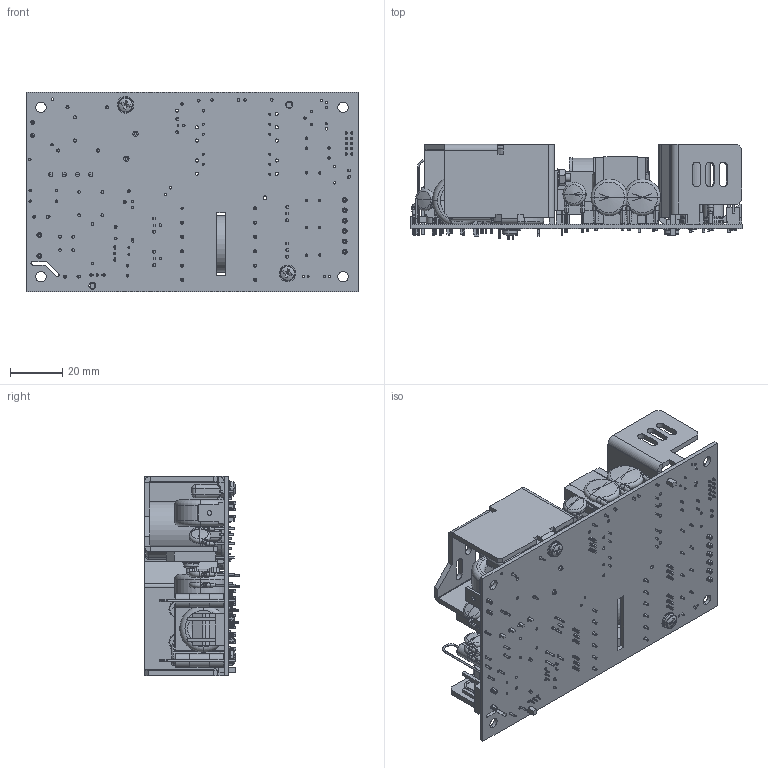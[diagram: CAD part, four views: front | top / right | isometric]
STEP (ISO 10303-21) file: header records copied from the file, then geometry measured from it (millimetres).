
FILE_DESCRIPTION (( 'STEP AP214' ), '1' );
FILE_NAME ('GCS180PSXX.STEP', '2013-07-11T21:58:34', ( '' ), ( '' ), 'SwSTEP 2.0', 'SolidWorks 2012', '' );
FILE_SCHEMA (( 'AUTOMOTIVE_DESIGN' ));
Length unit declared in the file: inch
Products named in the file (35): 10013216A0; Screw_Flat Head Phillips (Metric)_(1314)_M3 x 8; Nut_Keps_4-40_Star_01; 1001451001; FHP_100dg_6-32x.250lg; Nut_hex_6-32_RP_KEPS; TO220_3P_01; Screw_Sq Cone_no 4_01_.250"; Therm_.350 D X .250 LS; Capacitor Disc_0.550 D_0.400" C; Faston .25 X .032; Conn_MLX_KK100_Hdr_02P; Capacitor Disc_0.300 D_0.250" C; Pot_Top adj_Type1_01; Conn_JST_S10B-PHDSS-B_Vertical; Capacitor Elec_08mm D_13mm H; Capacitor Elec_10mm D_25mm; Xxmr_1050x1150x1000_12p; Xfmr_GCS150; Capacitor Elec_22mm D_30mm H; Capacitor Elec_06.3mm D_13mm H; Capacitor Elec_8mm D_20mm; RES-3W; TO92_01; Capacitor Film_18x11mm_15 LS_19mm H; Inductor Toroid_18.0mm OD_7mm Width; Inductor Toroid_20.0mm OD_10mm Width; CAP FILM_17x5x11MM_15LS; Bridge Rectifier_GBU6K_Lead trimed; Capacitor Disc_0.300 D X .40 LS; FUSE-0; CON MLX  .156 06P; CON MLX  .156 3P; 1001450801; GCS180PSXX
Assembly tree (60 placements, depth 2):
  GCS180PSXX
    1001450801
    CON MLX  .156 3P
    CON MLX  .156 06P
    FUSE-0  x2
    Capacitor Disc_0.300 D X .40 LS  x3
    Bridge Rectifier_GBU6K_Lead trimed
    CAP FILM_17x5x11MM_15LS  x3
    Inductor Toroid_20.0mm OD_10mm Width  x2
    Inductor Toroid_18.0mm OD_7mm Width
    Capacitor Film_18x11mm_15 LS_19mm H
    TO92_01  x2
    RES-3W  x2
    Capacitor Elec_8mm D_20mm
    Capacitor Elec_06.3mm D_13mm H
    Capacitor Elec_22mm D_30mm H
    Xfmr_GCS150
    Xxmr_1050x1150x1000_12p
    Capacitor Elec_10mm D_25mm  x4
    Capacitor Elec_08mm D_13mm H  x2
    Conn_JST_S10B-PHDSS-B_Vertical
    Pot_Top adj_Type1_01
    Capacitor Disc_0.300 D_0.250" C  x2
    Conn_MLX_KK100_Hdr_02P
    Faston .25 X .032
    Capacitor Disc_0.550 D_0.400" C  x2
    Therm_.350 D X .250 LS
    Screw_Sq Cone_no 4_01_.250"  x3
    TO220_3P_01  x5
    Nut_hex_6-32_RP_KEPS  x2
    FHP_100dg_6-32x.250lg  x2
    1001451001
    Nut_Keps_4-40_Star_01  x3
    Screw_Flat Head Phillips (Metric)_(1314)_M3 x 8  x3
    10013216A0
Bounding box: 127 x 36.34 x 76.21 mm (x, y, z)
Volume: 109265.8 mm3; surface area: 83321.6 mm2
Topology: 83 solids, 100 shells, 3324 faces, 8034 edges, 5035 vertices
Faces by surface type: plane 1751, cylinder 1005, torus 214, cone 214, bspline 118, sphere 22
Entity records: 87003 total; most frequent: CARTESIAN_POINT 14281, DIRECTION 11662, ORIENTED_EDGE 10900, EDGE_CURVE 5450, AXIS2_PLACEMENT_3D 4177, VERTEX_POINT 3472, LINE 3308, VECTOR 3308
